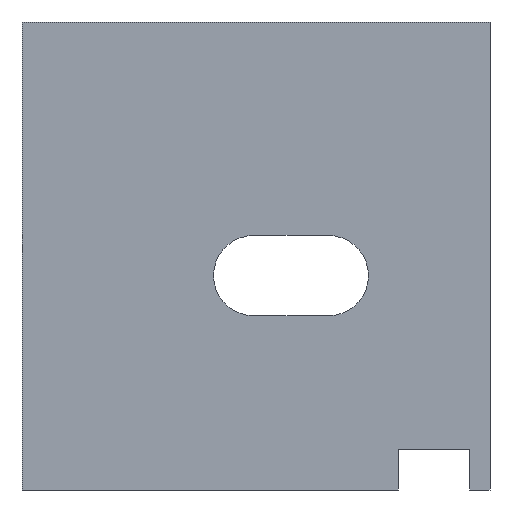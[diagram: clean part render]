
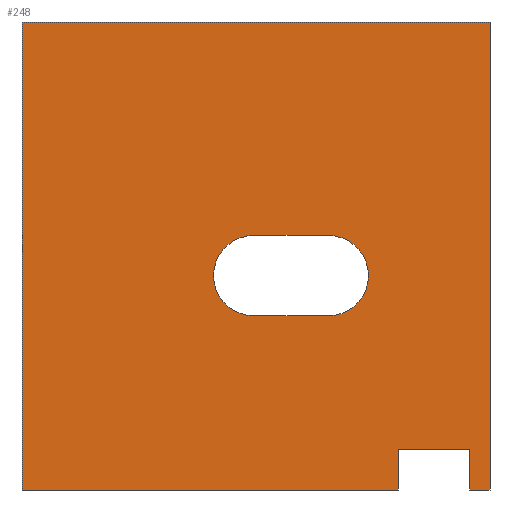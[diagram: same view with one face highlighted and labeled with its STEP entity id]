
A CAD part, left-side view. The second image highlights one B-rep face of the part: STEP entity #248.
In plain terms, the highlighted planar face has unit normal (-1, 0, 0).
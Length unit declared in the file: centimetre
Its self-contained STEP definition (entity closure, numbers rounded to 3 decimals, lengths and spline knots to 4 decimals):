
#17 = ORIENTED_EDGE ( 'NONE', *, *, #602, .F. ) ;
#24 = DIRECTION ( 'NONE',  ( 0., 1., 0. ) ) ;
#25 = ORIENTED_EDGE ( 'NONE', *, *, #598, .T. ) ;
#29 = VECTOR ( 'NONE', #653, 100. ) ;
#32 = VERTEX_POINT ( 'NONE', #89 ) ;
#34 = LINE ( 'NONE', #307, #230 ) ;
#40 = CARTESIAN_POINT ( 'NONE',  ( 0., 0., 1000. ) ) ;
#42 = ORIENTED_EDGE ( 'NONE', *, *, #839, .T. ) ;
#46 = CARTESIAN_POINT ( 'NONE',  ( 0., 1000., 1000. ) ) ;
#50 = VERTEX_POINT ( 'NONE', #213 ) ;
#65 = CARTESIAN_POINT ( 'NONE',  ( 0., 504.8329, 372.194 ) ) ;
#69 = DIRECTION ( 'NONE',  ( 0., 0., -1. ) ) ;
#75 = VERTEX_POINT ( 'NONE', #363 ) ;
#82 = ORIENTED_EDGE ( 'NONE', *, *, #549, .F. ) ;
#89 = CARTESIAN_POINT ( 'NONE',  ( 0., 345.4572, 543.8353 ) ) ;
#93 = VERTEX_POINT ( 'NONE', #65 ) ;
#99 = EDGE_CURVE ( 'NONE', #75, #93, #111, .T. ) ;
#103 = CARTESIAN_POINT ( 'NONE',  ( 0., 43.0108, 0. ) ) ;
#111 = CIRCLE ( 'NONE', #499, 85.8206 ) ;
#116 = VECTOR ( 'NONE', #664, 100. ) ;
#157 = ORIENTED_EDGE ( 'NONE', *, *, #728, .F. ) ;
#159 = FACE_BOUND ( 'NONE', #238, .T. ) ;
#163 = ORIENTED_EDGE ( 'NONE', *, *, #99, .F. ) ;
#187 = VERTEX_POINT ( 'NONE', #815 ) ;
#197 = VERTEX_POINT ( 'NONE', #610 ) ;
#213 = CARTESIAN_POINT ( 'NONE',  ( 0., 195.9689, 87.3163 ) ) ;
#223 = CARTESIAN_POINT ( 'NONE',  ( 0., 1000., 1000. ) ) ;
#226 = FACE_OUTER_BOUND ( 'NONE', #448, .T. ) ;
#227 = CARTESIAN_POINT ( 'NONE',  ( 0., 1000., 0. ) ) ;
#230 = VECTOR ( 'NONE', #584, 100. ) ;
#231 = CARTESIAN_POINT ( 'NONE',  ( 0., 43.0108, 87.3163 ) ) ;
#233 = ORIENTED_EDGE ( 'NONE', *, *, #743, .F. ) ;
#235 = CARTESIAN_POINT ( 'NONE',  ( 0., 1000., 0. ) ) ;
#236 = LINE ( 'NONE', #103, #342 ) ;
#238 = EDGE_LOOP ( 'NONE', ( #157, #82, #367, #163 ) ) ;
#239 = LINE ( 'NONE', #781, #29 ) ;
#241 = ORIENTED_EDGE ( 'NONE', *, *, #426, .T. ) ;
#248 = ADVANCED_FACE ( 'NONE', ( #159, #226 ), #369, .F. ) ;
#275 = CARTESIAN_POINT ( 'NONE',  ( 0., 345.4572, 372.194 ) ) ;
#296 = VERTEX_POINT ( 'NONE', #231 ) ;
#303 = DIRECTION ( 'NONE',  ( 0., -1., 0. ) ) ;
#307 = CARTESIAN_POINT ( 'NONE',  ( 0., 345.4572, 372.194 ) ) ;
#315 = VECTOR ( 'NONE', #343, 100. ) ;
#316 = CARTESIAN_POINT ( 'NONE',  ( 0., 1000., 0. ) ) ;
#342 = VECTOR ( 'NONE', #650, 100. ) ;
#343 = DIRECTION ( 'NONE',  ( 0., -1., 0. ) ) ;
#344 = CIRCLE ( 'NONE', #773, 85.8206 ) ;
#362 = CARTESIAN_POINT ( 'NONE',  ( 0., 195.9689, 0. ) ) ;
#363 = CARTESIAN_POINT ( 'NONE',  ( 0., 504.8329, 543.8353 ) ) ;
#367 = ORIENTED_EDGE ( 'NONE', *, *, #458, .F. ) ;
#368 = ORIENTED_EDGE ( 'NONE', *, *, #624, .T. ) ;
#369 = PLANE ( 'NONE',  #525 ) ;
#374 = VECTOR ( 'NONE', #303, 100. ) ;
#376 = LINE ( 'NONE', #659, #811 ) ;
#394 = VERTEX_POINT ( 'NONE', #275 ) ;
#406 = EDGE_CURVE ( 'NONE', #518, #187, #713, .T. ) ;
#409 = LINE ( 'NONE', #223, #315 ) ;
#410 = DIRECTION ( 'NONE',  ( -1., 0., 0. ) ) ;
#414 = DIRECTION ( 'NONE',  ( 0., -1., 0. ) ) ;
#423 = LINE ( 'NONE', #227, #846 ) ;
#426 = EDGE_CURVE ( 'NONE', #50, #296, #239, .T. ) ;
#440 = CARTESIAN_POINT ( 'NONE',  ( 0., 1000., 1000. ) ) ;
#448 = EDGE_LOOP ( 'NONE', ( #241, #854, #543, #233, #17, #42, #25, #368 ) ) ;
#458 = EDGE_CURVE ( 'NONE', #93, #394, #34, .T. ) ;
#460 = LINE ( 'NONE', #466, #116 ) ;
#466 = CARTESIAN_POINT ( 'NONE',  ( 0., 1000., 1000. ) ) ;
#484 = DIRECTION ( 'NONE',  ( 0., 0., 1. ) ) ;
#499 = AXIS2_PLACEMENT_3D ( 'NONE', #741, #410, #882 ) ;
#508 = VERTEX_POINT ( 'NONE', #316 ) ;
#518 = VERTEX_POINT ( 'NONE', #866 ) ;
#525 = AXIS2_PLACEMENT_3D ( 'NONE', #440, #703, #572 ) ;
#526 = CARTESIAN_POINT ( 'NONE',  ( 0., 504.8329, 543.8353 ) ) ;
#543 = ORIENTED_EDGE ( 'NONE', *, *, #406, .T. ) ;
#549 = EDGE_CURVE ( 'NONE', #394, #32, #344, .T. ) ;
#572 = DIRECTION ( 'NONE',  ( 0., 0., -1. ) ) ;
#581 = DIRECTION ( 'NONE',  ( 0., 0., -1. ) ) ;
#584 = DIRECTION ( 'NONE',  ( 0., -1., 0. ) ) ;
#598 = EDGE_CURVE ( 'NONE', #508, #197, #423, .T. ) ;
#602 = EDGE_CURVE ( 'NONE', #699, #723, #409, .T. ) ;
#610 = CARTESIAN_POINT ( 'NONE',  ( 0., 195.9689, 0. ) ) ;
#624 = EDGE_CURVE ( 'NONE', #197, #50, #757, .T. ) ;
#650 = DIRECTION ( 'NONE',  ( 0., 0., -1. ) ) ;
#653 = DIRECTION ( 'NONE',  ( 0., -1., 0. ) ) ;
#659 = CARTESIAN_POINT ( 'NONE',  ( 0., 0., 1000. ) ) ;
#664 = DIRECTION ( 'NONE',  ( 0., 0., -1. ) ) ;
#699 = VERTEX_POINT ( 'NONE', #46 ) ;
#701 = LINE ( 'NONE', #526, #889 ) ;
#703 = DIRECTION ( 'NONE',  ( 1., 0., 0. ) ) ;
#713 = LINE ( 'NONE', #235, #374 ) ;
#723 = VERTEX_POINT ( 'NONE', #40 ) ;
#727 = VECTOR ( 'NONE', #484, 100. ) ;
#728 = EDGE_CURVE ( 'NONE', #32, #75, #701, .T. ) ;
#741 = CARTESIAN_POINT ( 'NONE',  ( 0., 504.8329, 458.0146 ) ) ;
#743 = EDGE_CURVE ( 'NONE', #723, #187, #376, .T. ) ;
#757 = LINE ( 'NONE', #362, #727 ) ;
#762 = CARTESIAN_POINT ( 'NONE',  ( 0., 345.4572, 458.0146 ) ) ;
#773 = AXIS2_PLACEMENT_3D ( 'NONE', #762, #835, #69 ) ;
#781 = CARTESIAN_POINT ( 'NONE',  ( 0., 43.0108, 87.3163 ) ) ;
#789 = EDGE_CURVE ( 'NONE', #296, #518, #236, .T. ) ;
#811 = VECTOR ( 'NONE', #581, 100. ) ;
#815 = CARTESIAN_POINT ( 'NONE',  ( 0., 0., 0. ) ) ;
#835 = DIRECTION ( 'NONE',  ( -1., 0., 0. ) ) ;
#839 = EDGE_CURVE ( 'NONE', #699, #508, #460, .T. ) ;
#846 = VECTOR ( 'NONE', #414, 100. ) ;
#854 = ORIENTED_EDGE ( 'NONE', *, *, #789, .T. ) ;
#866 = CARTESIAN_POINT ( 'NONE',  ( 0., 43.0108, 0. ) ) ;
#882 = DIRECTION ( 'NONE',  ( 0., 0., -1. ) ) ;
#889 = VECTOR ( 'NONE', #24, 100. ) ;
